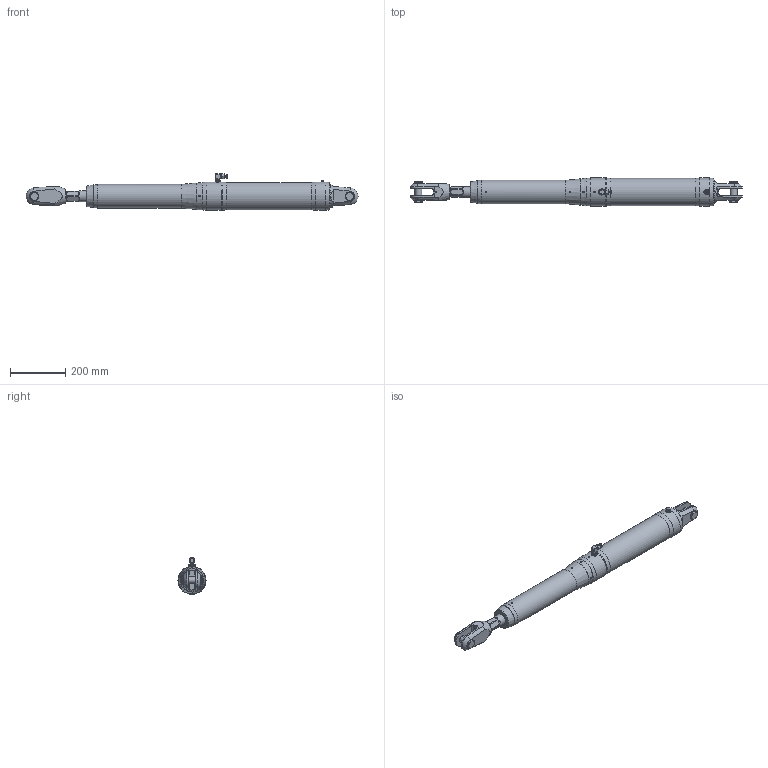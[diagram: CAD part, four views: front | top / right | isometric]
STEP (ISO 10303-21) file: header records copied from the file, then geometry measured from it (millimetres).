
FILE_DESCRIPTION(/* description */ (''),/* implementation_level */ '2;1');
FILE_NAME(/* name */ 'Q:\AA BRAND HYDRAULICS\HYDRAULICS FAMILY DIRECTORY\HYDRAULICS\CYLINDERS\MECHANICAL LOCK RAMS\ALUMINIUM - STAINLESS SINGLE ACTING (-0012 To -0150)\MSA-0040-S0300-NP-71\MSA-0040-S0300-NP-71 (Closed).stp',/* time_stamp */ '2018-04-25T16:14:39+01:00',/* author */ ('Lorena'),/* organization */ (''),/* preprocessor_version */ 'ST-DEVELOPER v17',/* originating_system */ 'Autodesk Inventor 2018',/* authorisation */ '');
FILE_SCHEMA (('AUTOMOTIVE_DESIGN { 1 0 10303 214 3 1 1 }'));
Length unit declared in the file: millimetre
Products named in the file (1): MSA-0040-S0300-NP-71 (Closed)
Bounding box: 1207.19 x 102.2 x 133 mm (x, y, z)
Volume: 6876007.7 mm3; surface area: 368613.1 mm2
Topology: 2 solids, 6 shells, 502 faces, 1296 edges, 843 vertices
Faces by surface type: plane 283, cone 124, cylinder 81, torus 6, sphere 4, bspline 4
Full cylindrical faces by diameter (mm): 4 x1, 4.134 x1, 4.2 x2, 5 x7, 5.1 x1, 5.9 x1, 7 x1, 9 x1, 10 x2, 11.157 x1, 11.5 x1, 11.8 x1, 12 x1, 12.157 x1, 12.77 x1, 13 x1, 13.157 x2, 14.5 x2, 16 x2, 18.3 x3, 22 x1, 25.4 x2, 25.5 x1, 31.75 x2, 40 x2, 41 x2, 44 x1, 86 x1, 99.2 x1, 102.2 x4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
Entity records: 16748 total; most frequent: CARTESIAN_POINT 4115, ORIENTED_EDGE 2576, DIRECTION 2526, EDGE_CURVE 1288, AXIS2_PLACEMENT_3D 973, VERTEX_POINT 844, LINE 580, VECTOR 580
